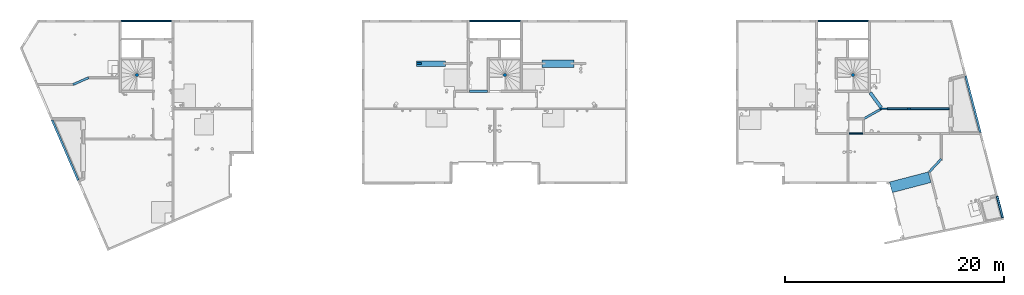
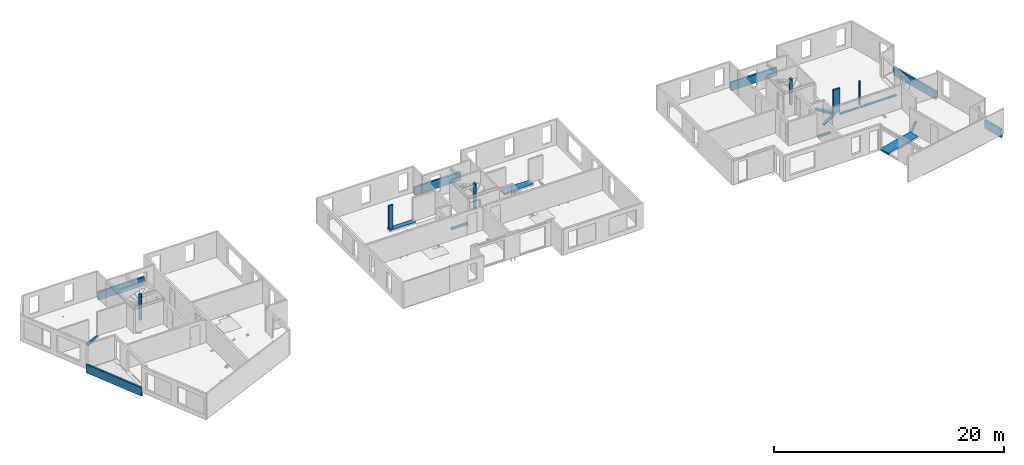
# One storey, part 1 of 24: 17 beams, 6 columns.
"""IFC2X3 building model written with IfcOpenShell, lengths in centimetres."""

from ifc_helpers import new_model, entity, si_unit, converted_unit, derived_unit, direction, frame, frame_2d, origin, origin_2d_with_axis, place, context, subcontext, project, spatial, rectangle, circle, extrude, clip, halfspace, face_set, faceted_brep, surface_model, source, transform, mapped, material, type_object, type_shapes, element, save


model = new_model("IFC2X3")

# Units and contexts
model_context = context("Model", 3, precision=0.001, world=origin(), true_north=direction((6.12303176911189e-17, 1.0)))
body_context = subcontext(model_context, "Body", "Model", "MODEL_VIEW")
ifc_project = project(units=[si_unit("LENGTHUNIT", "METRE", prefix="CENTI"), si_unit("AREAUNIT", "SQUARE_METRE"), si_unit("VOLUMEUNIT", "CUBIC_METRE"), converted_unit("PLANEANGLEUNIT", "DEGREE", entity("IfcRatioMeasure", 0.0174532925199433), si_unit("PLANEANGLEUNIT", "RADIAN"), dimensions=[0, 0, 0, 0, 0, 0, 0]), si_unit("MASSUNIT", "GRAM", prefix="KILO"), derived_unit("MASSDENSITYUNIT", [(si_unit("MASSUNIT", "GRAM", prefix="KILO"), 1), (si_unit("LENGTHUNIT", "METRE"), -3)]), si_unit("TIMEUNIT", "SECOND"), si_unit("FREQUENCYUNIT", "HERTZ"), si_unit("THERMODYNAMICTEMPERATUREUNIT", "DEGREE_CELSIUS"), derived_unit("THERMALTRANSMITTANCEUNIT", [(si_unit("MASSUNIT", "GRAM", prefix="KILO"), 1), (si_unit("THERMODYNAMICTEMPERATUREUNIT", "KELVIN"), -1), (si_unit("TIMEUNIT", "SECOND"), -3)]), derived_unit("VOLUMETRICFLOWRATEUNIT", [(si_unit("LENGTHUNIT", "METRE"), 3), (si_unit("TIMEUNIT", "SECOND"), -1)]), si_unit("ELECTRICCURRENTUNIT", "AMPERE"), si_unit("ELECTRICVOLTAGEUNIT", "VOLT"), si_unit("POWERUNIT", "WATT"), si_unit("FORCEUNIT", "NEWTON"), si_unit("ILLUMINANCEUNIT", "LUX"), si_unit("LUMINOUSFLUXUNIT", "LUMEN"), si_unit("LUMINOUSINTENSITYUNIT", "CANDELA"), derived_unit("USERDEFINED", [(si_unit("MASSUNIT", "GRAM", prefix="KILO"), -1), (si_unit("LENGTHUNIT", "METRE"), -2), (si_unit("TIMEUNIT", "SECOND"), 3), (si_unit("LUMINOUSFLUXUNIT", "LUMEN"), 1)]), derived_unit("LINEARVELOCITYUNIT", [(si_unit("LENGTHUNIT", "METRE"), 1), (si_unit("TIMEUNIT", "SECOND"), -1)]), si_unit("PRESSUREUNIT", "PASCAL"), derived_unit("USERDEFINED", [(si_unit("LENGTHUNIT", "METRE"), -2), (si_unit("MASSUNIT", "GRAM", prefix="KILO"), 1), (si_unit("TIMEUNIT", "SECOND"), -2)])], contexts=[model_context])

# Site, building, storey
site_placement = place(None, origin())
site = spatial("IfcSite", under=ifc_project, at=site_placement, Name="Default", CompositionType="ELEMENT")
building_placement = place(site_placement, origin())
building = spatial("IfcBuilding", under=site, at=building_placement, Name="CAGE 03", CompositionType="ELEMENT")
storey_placement = place(building_placement, frame((0.0, 0.0, 1150.0)))
storey = spatial("IfcBuildingStorey", under=building, at=storey_placement, Name="R+4", CompositionType="ELEMENT", Elevation=1150.0)

# Columns
ifc_material_1 = material(Name="Béton, C25/30")
column_type_1 = type_object("IfcColumnType", Name="18x67", PredefinedType="COLUMN", material=ifc_material_1)
shared_shape_1 = source(origin(), body_context, "Body", "SweptSolid", [
    extrude(rectangle(XDim=18.0000000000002, YDim=67.0000000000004, at=frame_2d((0.0, -1.73372427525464e-12), x_axis=(1.0, 0.0))), frame((10628.3658201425, 4483.66066607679, 1370.0), z_axis=(0.0, 0.0, 1.0), x_axis=(0.0, -1.0, 0.0)), (0.0, 0.0, 1.0), 30.0000000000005),
    extrude(rectangle(XDim=18.0000000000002, YDim=67.0000000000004, at=frame_2d((0.0, -1.73372427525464e-12), x_axis=(1.0, 0.0))), frame((10628.3658201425, 4483.66066607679, 1150.0), z_axis=(0.0, 0.0, 1.0), x_axis=(0.0, -1.0, 0.0)), (0.0, 0.0, 1.0), 219.999999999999),
])
type_shapes(column_type_1, [shared_shape_1])
column_1_placement = place(storey_placement, frame((0.0, 0.0, -1150.0)))
element("IfcColumn", 1, at=column_1_placement, inside=storey, type_object=column_type_1, material=ifc_material_1, Name="BBGO-Poteau rect:18x67", ObjectType="18x67", context=body_context, shape_type="MappedRepresentation", body=[
    mapped(shared_shape_1, transform((0.0, 0.0, 0.0), scale=1.0)),
])
column_type_2 = type_object("IfcColumnType", Name="Ø20", PredefinedType="COLUMN", material=ifc_material_1)
shared_shape_2 = source(origin(), body_context, "Body", "SweptSolid", [
    extrude(circle(Radius=10.0000000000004, at=origin_2d_with_axis()), frame((10861.3658201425, 4483.66066607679, 1370.0), z_axis=(0.0, 0.0, 1.0), x_axis=(0.0, -1.0, 0.0)), (0.0, 0.0, 1.0), 30.0000000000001),
    extrude(circle(Radius=10.0000000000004, at=origin_2d_with_axis()), frame((10861.3658201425, 4483.66066607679, 1150.0), z_axis=(0.0, 0.0, 1.0), x_axis=(0.0, -1.0, 0.0)), (0.0, 0.0, 1.0), 220.0),
])
type_shapes(column_type_2, [shared_shape_2])
column_2_placement = place(storey_placement, frame((0.0, 0.0, -1150.0)))
element("IfcColumn", 2, at=column_2_placement, inside=storey, type_object=column_type_2, material=ifc_material_1, Name="BBGO-Poteau circ:Ø20", ObjectType="Ø20", context=body_context, shape_type="MappedRepresentation", body=[
    mapped(shared_shape_2, transform((0.0, 0.0, 0.0), scale=1.0)),
])
column_type_3 = type_object("IfcColumnType", Name="16x43", PredefinedType="COLUMN", material=ifc_material_1)
shared_shape_3 = source(origin(), body_context, "Body", "SweptSolid", [
    extrude(rectangle(XDim=15.9999999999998, YDim=42.9999999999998, at=origin_2d_with_axis()), frame((6388.86582014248, 4895.6606660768, 1150.0), z_axis=(0.0, 0.0, 1.0), x_axis=(0.0, -1.0, 0.0)), (0.0, 0.0, 1.0), 250.0),
])
type_shapes(column_type_3, [shared_shape_3])
column_3_placement = place(storey_placement, frame((0.0, 0.0, -1150.0)))
element("IfcColumn", 3, at=column_3_placement, inside=storey, type_object=column_type_3, material=ifc_material_1, Name="BBGO-Poteau rect:16x43", ObjectType="16x43", context=body_context, shape_type="MappedRepresentation", body=[
    mapped(shared_shape_3, transform((0.0, 0.0, 0.0), scale=1.0)),
])
ifc_material_2 = material(Name="Béton, panneaux préfa 30/37")
column_type_4 = type_object("IfcColumnType", Name="Ø30", PredefinedType="COLUMN", material=ifc_material_2)
shared_shape_4 = source(origin(), body_context, "Body", "SweptSolid", [
    extrude(circle(Radius=15.0, at=origin_2d_with_axis()), frame((3813.36582014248, 4791.66066607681, 1400.0), z_axis=(0.0, 0.0, 1.0), x_axis=(-1.0, 0.0, 0.0)), (0.0, 0.0, 1.0), 20.0),
    extrude(circle(Radius=15.0, at=origin_2d_with_axis()), frame((3813.36582014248, 4791.66066607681, 1150.0)), (0.0, 0.0, 1.0), 250.0),
])
type_shapes(column_type_4, [shared_shape_4])
column_4_placement = place(storey_placement, frame((0.0, 0.0, -1150.0)))
element("IfcColumn", 4, at=column_4_placement, inside=storey, type_object=column_type_4, material=ifc_material_2, Name="BBGO-Poteau circ:Ø30", ObjectType="Ø30", context=body_context, shape_type="MappedRepresentation", body=[
    mapped(shared_shape_4, transform((0.0, 0.0, 0.0), scale=1.0)),
])
column_type_5 = type_object("IfcColumnType", Name="Ø30", PredefinedType="COLUMN", material=ifc_material_2)
shared_shape_5 = source(origin(), body_context, "Body", "SweptSolid", [
    extrude(circle(Radius=15.0000000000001, at=origin_2d_with_axis()), frame((7172.36582014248, 4791.66066607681, 1400.0), z_axis=(0.0, 0.0, 1.0), x_axis=(-1.0, 0.0, 0.0)), (0.0, 0.0, 1.0), 20.0),
    extrude(circle(Radius=15.0000000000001, at=origin_2d_with_axis()), frame((7172.36582014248, 4791.66066607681, 1150.0)), (0.0, 0.0, 1.0), 250.0),
])
type_shapes(column_type_5, [shared_shape_5])
column_5_placement = place(storey_placement, frame((0.0, 0.0, -1150.0)))
element("IfcColumn", 5, at=column_5_placement, inside=storey, type_object=column_type_5, material=ifc_material_2, Name="BBGO-Poteau circ:Ø30", ObjectType="Ø30", context=body_context, shape_type="MappedRepresentation", body=[
    mapped(shared_shape_5, transform((0.0, 0.0, 0.0), scale=1.0)),
])
column_type_6 = type_object("IfcColumnType", Name="Ø30", PredefinedType="COLUMN", material=ifc_material_2)
shared_shape_6 = source(origin(), body_context, "Body", "SweptSolid", [
    extrude(circle(Radius=15.0, at=origin_2d_with_axis()), frame((10349.3658201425, 4791.66066607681, 1400.0), z_axis=(0.0, 0.0, 1.0), x_axis=(-1.0, 0.0, 0.0)), (0.0, 0.0, 1.0), 20.0),
    extrude(circle(Radius=15.0, at=origin_2d_with_axis()), frame((10349.3658201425, 4791.66066607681, 1150.0)), (0.0, 0.0, 1.0), 250.0),
])
type_shapes(column_type_6, [shared_shape_6])
column_6_placement = place(storey_placement, frame((0.0, 0.0, -1150.0)))
element("IfcColumn", 6, at=column_6_placement, inside=storey, type_object=column_type_6, material=ifc_material_2, Name="BBGO-Poteau circ:Ø30", ObjectType="Ø30", context=body_context, shape_type="MappedRepresentation", body=[
    mapped(shared_shape_6, transform((0.0, 0.0, 0.0), scale=1.0)),
])

# Beams
beam_type_1 = type_object("IfcBeamType", Name="BBGO-Poutre rect:18x35ht", PredefinedType="BEAM")
beam_1_placement = place(storey_placement, frame((10661.8658201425, 4474.50191607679, -35.0)))
element("IfcBeam", 7, at=beam_1_placement, inside=storey, type_object=beam_type_1, material=ifc_material_1, Name="BBGO-Poutre rect:18x35ht", ObjectType="BBGO-Poutre rect:18x35ht", context=body_context, shape_type="Brep", body=[
    faceted_brep([(195.141101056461, 0.158750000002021, 0.0), (195.141101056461, 0.158750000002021, 15.0), (0.0, 0.158750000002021, 15.0), (0.0, 0.158750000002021, 0.0), (192.531752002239, 1.98633619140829, 0.0), (0.0, 18.1587500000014, 0.0), (195.141101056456, 18.1587500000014, 0.0), (192.531752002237, 16.3311638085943, 0.0), (190.629594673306, 13.775665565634, 0.0), (189.627674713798, 10.7516070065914, 0.0), (189.627674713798, 7.56589299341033, 0.0), (190.629594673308, 4.54183443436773, 0.0), (195.141101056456, 18.1587500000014, 15.0), (0.0, 18.1587500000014, 15.0), (192.531752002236, 16.3311638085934, 15.0), (190.629594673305, 13.7756655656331, 15.0), (189.627674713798, 10.7516070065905, 15.0), (189.627674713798, 7.56589299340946, 15.0), (190.629594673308, 4.54183443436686, 15.0), (192.531752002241, 1.98633619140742, 15.0)], [[[0, 1, 2, 3]], [[4, 0, 3, 5, 6, 7, 8, 9, 10, 11]], [[12, 6, 5, 13]], [[3, 2, 13, 5]], [[12, 14, 7, 6]], [[15, 16, 9, 8]], [[14, 15, 8, 7]], [[16, 17, 10, 9]], [[17, 18, 11, 10]], [[19, 1, 0, 4]], [[18, 19, 4, 11]], [[13, 2, 1, 19, 18, 17, 16, 15, 14, 12]]]),
])
beam_2_placement = place(storey_placement, frame((10865.565969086, 4474.50191607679, -35.0)))
element("IfcBeam", 8, at=beam_2_placement, inside=storey, type_object=beam_type_1, material=ifc_material_1, Name="BBGO-Poutre rect:18x35ht", ObjectType="BBGO-Poutre rect:18x35ht", context=body_context, shape_type="Brep", body=[
    faceted_brep([(364.79985105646, 0.158750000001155, 0.0), (364.79985105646, 0.158750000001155, 15.0), (0.158749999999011, 0.158750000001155, 15.0), (0.158750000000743, 0.158750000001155, 0.0), (2.76809905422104, 1.98633619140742, 0.0), (4.67025638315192, 4.54183443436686, 0.0), (5.67217634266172, 7.56589299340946, 0.0), (5.67217634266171, 10.7516070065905, 0.0), (4.67025638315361, 13.7756655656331, 0.0), (2.76809905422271, 16.3311638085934, 0.0), (0.15875000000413, 18.1587500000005, 0.0), (364.79985105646, 18.1587500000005, 0.0), (364.79985105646, 18.1587500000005, 15.0), (0.15875000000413, 18.1587500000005, 15.0), (2.76809905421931, 1.98633619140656, 15.0), (4.67025638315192, 4.541834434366, 15.0), (5.67217634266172, 7.5658929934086, 15.0), (5.67217634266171, 10.7516070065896, 15.0), (4.67025638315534, 13.7756655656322, 15.0), (2.76809905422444, 16.3311638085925, 15.0)], [[[0, 1, 2, 3]], [[0, 3, 4, 5, 6, 7, 8, 9, 10, 11]], [[12, 11, 10, 13]], [[4, 3, 2, 14]], [[15, 16, 6, 5]], [[5, 4, 14, 15]], [[16, 17, 7, 6]], [[17, 18, 8, 7]], [[19, 13, 10, 9]], [[18, 19, 9, 8]], [[0, 11, 12, 1]], [[18, 17, 16, 15, 14, 2, 1, 12, 13, 19]]]),
])
beam_type_2 = type_object("IfcBeamType", Name="BBGO-Poutre rect:18x89ht", PredefinedType="BEAM")
beam_3_placement = place(storey_placement, frame((3663.36582014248, 5284.66066607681, 0.0)))
element("IfcBeam", 9, at=beam_3_placement, inside=storey, type_object=beam_type_2, material=ifc_material_1, Name="BBGO-Poutre rect:18x89ht", ObjectType="BBGO-Poutre rect:18x89ht", context=body_context, shape_type="SweptSolid", body=[
    extrude(rectangle(XDim=89.0000000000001, YDim=17.9999999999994, at=frame_2d((0.0, 1.73283609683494e-12), x_axis=(1.0, 0.0))), frame((9.0, 0.0, 0.499999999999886), z_axis=(1.0, 0.0, 0.0), x_axis=(0.0, 0.0, -1.0)), (0.0, 0.0, 1.0), 461.999999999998),
])
beam_4_placement = place(storey_placement, frame((6840.36582014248, 5284.6606660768, 0.0)))
element("IfcBeam", 10, at=beam_4_placement, inside=storey, type_object=beam_type_2, material=ifc_material_1, Name="BBGO-Poutre rect:18x89ht", ObjectType="BBGO-Poutre rect:18x89ht", context=body_context, shape_type="SweptSolid", body=[
    extrude(rectangle(XDim=89.0000000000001, YDim=17.9999999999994, at=frame_2d((0.0, 1.73283609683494e-12), x_axis=(1.0, 0.0))), frame((9.0, 0.0, 0.499999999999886), z_axis=(1.0, 0.0, 0.0), x_axis=(0.0, 0.0, -1.0)), (0.0, 0.0, 1.0), 464.0),
])
beam_5_placement = place(storey_placement, frame((10019.3658201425, 5284.66066607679, 0.0)))
element("IfcBeam", 11, at=beam_5_placement, inside=storey, type_object=beam_type_2, material=ifc_material_1, Name="BBGO-Poutre rect:18x89ht", ObjectType="BBGO-Poutre rect:18x89ht", context=body_context, shape_type="SweptSolid", body=[
    extrude(rectangle(XDim=89.0000000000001, YDim=17.9999999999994, at=frame_2d((0.0, 1.73283609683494e-12), x_axis=(1.0, 0.0))), frame((9.0, 0.0, 0.499999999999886), z_axis=(1.0, 0.0, 0.0), x_axis=(0.0, 0.0, -1.0)), (0.0, 0.0, 1.0), 462.000000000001),
])
beam_6_placement = place(storey_placement, frame((3281.62861640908, 3824.01596311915, 0.0), z_axis=(0.0, 0.0, 1.0), x_axis=(-0.397106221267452, 0.91777265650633, 0.0)))
element("IfcBeam", 12, at=beam_6_placement, inside=storey, type_object=beam_type_2, material=ifc_material_1, Name="BBGO-Poutre rect:18x89ht", ObjectType="BBGO-Poutre rect:18x89ht", context=body_context, shape_type="Clipping", body=[
    clip(extrude(rectangle(XDim=89.0000000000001, YDim=18.0000000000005, at=frame_2d((0.0, -1.98951966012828e-13), x_axis=(1.0, 0.0))), frame((9.0, 0.0, 0.499999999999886), z_axis=(1.0, 0.0, 0.0), x_axis=(0.0, 0.0, -1.0)), (0.0, 0.0, 1.0), 602.500740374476), halfspace(frame((496.396298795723, -257.023807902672, -270.0), z_axis=(0.917772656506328, -0.397106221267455, 0.0), x_axis=(-0.397106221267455, -0.917772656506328, 0.0)), False)),
])
beam_7_placement = place(storey_placement, frame((11375.3311365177, 4792.76076680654, 0.0), z_axis=(0.0, 0.0, 1.0), x_axis=(0.252679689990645, -0.967549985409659, 0.0)))
element("IfcBeam", 13, at=beam_7_placement, inside=storey, type_object=beam_type_2, material=ifc_material_1, Name="BBGO-Poutre rect:18x89ht", ObjectType="BBGO-Poutre rect:18x89ht", context=body_context, shape_type="Clipping", body=[
    clip(extrude(rectangle(XDim=89.0000000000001, YDim=17.9999999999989, at=frame_2d((0.0, 8.38440428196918e-13), x_axis=(1.0, 0.0))), frame((9.0, 0.0, 0.499999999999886), z_axis=(1.0, 0.0, 0.0), x_axis=(0.0, 0.0, -1.0)), (0.0, 0.0, 1.0), 537.095008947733), halfspace(frame((547.268838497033, 13.4947766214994, 0.0), z_axis=(0.967549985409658, -0.252679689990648, 0.0), x_axis=(-0.252679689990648, -0.967549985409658, 0.0)), False)),
])
beam_8_placement = place(storey_placement, frame((11662.375264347, 3693.62398338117, 0.0), z_axis=(0.0, 0.0, 1.0), x_axis=(0.252679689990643, -0.96754998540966, 0.0)))
element("IfcBeam", 14, at=beam_8_placement, inside=storey, type_object=beam_type_2, material=ifc_material_1, Name="BBGO-Poutre rect:18x89ht", ObjectType="BBGO-Poutre rect:18x89ht", context=body_context, shape_type="Clipping", body=[
    clip(extrude(rectangle(XDim=89.0000000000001, YDim=17.999999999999, at=frame_2d((0.0, 2.62456723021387e-12), x_axis=(1.0, 0.0))), frame((9.0, 0.0, 0.499999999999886), z_axis=(1.0, 0.0, 0.0), x_axis=(0.0, 0.0, -1.0)), (0.0, 0.0, 1.0), 204.587793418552), halfspace(frame((171.771995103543, -791.479812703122, -270.0), z_axis=(0.998638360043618, -0.0521672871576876, 0.0), x_axis=(-0.0521672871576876, -0.998638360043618, 0.0)), False)),
])
beam_type_3 = type_object("IfcBeamType", Name="20x20ht", PredefinedType="BEAM", material=ifc_material_1)
shared_shape_7 = source(origin(), body_context, "Body", "SurfaceModel", [
    surface_model("IfcFaceBasedSurfaceModel", [(0.0, 18.3053501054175, 20.0), (8.05693226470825, 0.0, 20.0), (8.05693226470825, 0.0, 0.0), (0.0, 18.3053501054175, 0.0), (142.0, 80.8053501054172, 20.0), (150.056932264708, 62.5000000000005, 20.0), (150.056932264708, 62.5000000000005, 0.0), (142.0, 80.8053501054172, 0.0)], [face_set([[[0, 1, 2, 3]], [[4, 5, 6, 7]], [[3, 0, 4, 7]], [[2, 3, 7, 6]], [[1, 2, 6, 5]], [[0, 1, 5, 4]]])]),
])
type_shapes(beam_type_3, [shared_shape_7])
beam_9_placement = place(storey_placement, frame((3227.33735401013, 4695.5079910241, -20.0)))
element("IfcBeam", 15, at=beam_9_placement, inside=storey, type_object=beam_type_3, material=ifc_material_1, Name="BBGO-Poutre rect:20x20ht", ObjectType="20x20ht", context=body_context, shape_type="MappedRepresentation", body=[
    mapped(shared_shape_7, transform((0.0, 0.0, 0.0), scale=1.0)),
])
beam_type_4 = type_object("IfcBeamType", Name="18x20ht", PredefinedType="BEAM", material=ifc_material_1)
shared_shape_8 = source(origin(), body_context, "Body", "Brep", [
    faceted_brep([(122.0, 0.0, 20.0), (122.0, 0.0, 0.0), (122.0, 18.0, 0.0), (122.0, 18.0, 20.0), (0.0, 0.0, 20.0), (0.0, 18.0, 20.0), (0.0, 18.0, 0.0), (0.0, 0.0, 0.0)], [[[0, 1, 2, 3]], [[4, 5, 6, 7]], [[1, 0, 4, 7]], [[2, 1, 7, 6]], [[3, 2, 6, 5]], [[0, 3, 5, 4]]]),
])
type_shapes(beam_type_4, [shared_shape_8])
beam_10_placement = place(storey_placement, frame((10315.3658201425, 4248.66066607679, -20.0)))
element("IfcBeam", 16, at=beam_10_placement, inside=storey, type_object=beam_type_4, material=ifc_material_1, Name="BBGO-Poutre rect:18x20ht", ObjectType="18x20ht", context=body_context, shape_type="MappedRepresentation", body=[
    mapped(shared_shape_8, transform((0.0, 0.0, 0.0), scale=1.0)),
])
beam_type_5 = type_object("IfcBeamType", Name="20x20ht", PredefinedType="BEAM", material=ifc_material_1)
shared_shape_9 = source(origin(), body_context, "Body", "SurfaceModel", [
    surface_model("IfcFaceBasedSurfaceModel", [(123.564687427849, 117.609640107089, 20.0), (123.564687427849, 117.609640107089, 0.0), (108.888920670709, 131.197203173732, 0.0), (108.888920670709, 131.197203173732, 20.0), (14.6757667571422, 0.0, 20.0), (14.6757667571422, 0.0, 0.0), (0.0, 13.5875630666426, 0.0), (0.0, 13.5875630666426, 20.0)], [face_set([[[0, 1, 2, 3]], [[4, 5, 6, 7]], [[1, 0, 4, 5]], [[2, 1, 5, 6]], [[3, 2, 6, 7]], [[0, 3, 7, 4]]])]),
])
type_shapes(beam_type_5, [shared_shape_9])
beam_11_placement = place(storey_placement, frame((11039.6390160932, 3900.25724443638, -20.0)))
element("IfcBeam", 17, at=beam_11_placement, inside=storey, type_object=beam_type_5, material=ifc_material_1, Name="BBGO-Poutre rect:20x20ht", ObjectType="20x20ht", context=body_context, shape_type="MappedRepresentation", body=[
    mapped(shared_shape_9, transform((0.0, 0.0, 0.0), scale=1.0)),
])
beam_type_6 = type_object("IfcBeamType", Name="70x20ht", PredefinedType="BEAM", material=ifc_material_1)
shared_shape_10 = source(origin(), body_context, "Body", "Brep", [
    faceted_brep([(291.5, 0.0, 20.0), (291.5, 0.0, 0.0), (291.5, 70.0, 0.0), (291.5, 70.0, 20.0), (0.0, 0.0, 20.0), (0.0, 70.0, 20.0), (0.0, 70.0, 0.0), (0.0, 0.0, 0.0)], [[[0, 1, 2, 3]], [[4, 5, 6, 7]], [[1, 0, 4, 7]], [[2, 1, 7, 6]], [[3, 2, 6, 5]], [[0, 3, 5, 4]]]),
])
type_shapes(beam_type_6, [shared_shape_10])
beam_12_placement = place(storey_placement, frame((7512.36582014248, 4860.6606660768, -20.0)))
element("IfcBeam", 18, at=beam_12_placement, inside=storey, type_object=beam_type_6, material=ifc_material_1, Name="BBGO-Poutre rect:70x20ht", ObjectType="70x20ht", context=body_context, shape_type="MappedRepresentation", body=[
    mapped(shared_shape_10, transform((0.0, 0.0, 0.0), scale=1.0)),
])
beam_type_7 = type_object("IfcBeamType", Name="50x20ht", PredefinedType="BEAM", material=ifc_material_1)
shared_shape_11 = source(origin(), body_context, "Body", "Brep", [
    faceted_brep([(263.0, 0.0, 20.0), (263.0, 0.0, 0.0), (263.0, 50.0, 0.0), (263.0, 50.0, 20.0), (0.0, 0.0, 20.0), (0.0, 50.0, 20.0), (0.0, 50.0, 0.0), (0.0, 0.0, 0.0)], [[[0, 1, 2, 3]], [[4, 5, 6, 7]], [[1, 0, 4, 7]], [[2, 1, 7, 6]], [[3, 2, 6, 5]], [[0, 3, 5, 4]]]),
])
type_shapes(beam_type_7, [shared_shape_11])
beam_13_placement = place(storey_placement, frame((6367.36582014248, 4870.6606660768, -20.0)))
element("IfcBeam", 19, at=beam_13_placement, inside=storey, type_object=beam_type_7, material=ifc_material_1, Name="BBGO-Poutre rect:50x20ht", ObjectType="50x20ht", context=body_context, shape_type="MappedRepresentation", body=[
    mapped(shared_shape_11, transform((0.0, 0.0, 0.0), scale=1.0)),
])
beam_type_8 = type_object("IfcBeamType", Name="30x20ht", PredefinedType="BEAM", material=ifc_material_1)
shared_shape_12 = source(origin(), body_context, "Body", "SurfaceModel", [
    surface_model("IfcFaceBasedSurfaceModel", [(100.827219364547, 0.0, 20.0), (100.827219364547, 0.0, 0.0), (125.046144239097, 17.7043406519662, 0.0), (125.046144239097, 17.7043406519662, 20.0), (0.0, 137.928144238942, 20.0), (24.2189248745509, 155.632484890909, 20.0), (24.2189248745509, 155.632484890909, 0.0), (0.0, 137.928144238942, 0.0)], [face_set([[[0, 1, 2, 3]], [[4, 5, 6, 7]], [[1, 7, 4, 0]], [[2, 1, 7, 6]], [[3, 2, 6, 5]], [[0, 3, 5, 4]]])]),
])
type_shapes(beam_type_8, [shared_shape_12])
beam_14_placement = place(storey_placement, frame((10495.3500244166, 4483.80849575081, -20.0)))
element("IfcBeam", 20, at=beam_14_placement, inside=storey, type_object=beam_type_8, material=ifc_material_1, Name="BBGO-Poutre rect:30x20ht", ObjectType="30x20ht", context=body_context, shape_type="MappedRepresentation", body=[
    mapped(shared_shape_12, transform((0.0, 0.0, 0.0), scale=1.0)),
])
beam_type_9 = type_object("IfcBeamType", Name="100x20ht", PredefinedType="BEAM", material=ifc_material_1)
shared_shape_13 = source(origin(), body_context, "Body", "SurfaceModel", [
    surface_model("IfcFaceBasedSurfaceModel", [(379.391263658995, 92.4807665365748, 20.0), (379.391263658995, 92.4807665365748, 0.0), (354.123294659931, 189.235765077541, 0.0), (354.123294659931, 189.235765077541, 20.0), (25.2679689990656, 0.0, 20.0), (25.2679689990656, 0.0, 0.0), (0.0, 96.7549985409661, 0.0), (0.0, 96.7549985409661, 20.0)], [face_set([[[0, 1, 2, 3]], [[4, 5, 6, 7]], [[1, 0, 4, 5]], [[2, 1, 5, 6]], [[3, 2, 6, 7]], [[0, 3, 7, 4]]])]),
])
type_shapes(beam_type_9, [shared_shape_13])
beam_15_placement = place(storey_placement, frame((10683.5281497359, 3717.90566753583, -20.0)))
element("IfcBeam", 21, at=beam_15_placement, inside=storey, type_object=beam_type_9, material=ifc_material_1, Name="BBGO-Poutre rect:100x20ht", ObjectType="100x20ht", context=body_context, shape_type="MappedRepresentation", body=[
    mapped(shared_shape_13, transform((0.0, 0.0, 0.0), scale=1.0)),
])
beam_type_10 = type_object("IfcBeamType", Name="20x20ht", PredefinedType="BEAM", material=ifc_material_1)
shared_shape_14 = source(origin(), body_context, "Body", "SurfaceModel", [
    surface_model("IfcFaceBasedSurfaceModel", [(174.257652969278, 93.0, 20.0), (174.257652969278, 93.0, 0.0), (164.410714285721, 110.407980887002, 0.0), (164.410714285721, 110.407980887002, 20.0), (9.84693868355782, 0.0, 20.0), (9.84693868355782, 0.0, 0.0), (0.0, 17.4079808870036, 0.0), (0.0, 17.4079808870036, 20.0)], [face_set([[[0, 1, 2, 3]], [[4, 5, 6, 7]], [[1, 0, 4, 5]], [[2, 1, 5, 6]], [[3, 2, 6, 7]], [[0, 3, 7, 4]]])]),
])
type_shapes(beam_type_10, [shared_shape_14])
beam_16_placement = place(storey_placement, frame((10441.4423508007, 4381.95667563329, -20.0)))
element("IfcBeam", 22, at=beam_16_placement, inside=storey, type_object=beam_type_10, material=ifc_material_1, Name="BBGO-Poutre rect:20x20ht", ObjectType="20x20ht", context=body_context, shape_type="MappedRepresentation", body=[
    mapped(shared_shape_14, transform((0.0, 0.0, 0.0), scale=1.0)),
])
beam_type_11 = type_object("IfcBeamType", Name="20x20ht", PredefinedType="BEAM", material=ifc_material_1)
shared_shape_15 = source(origin(), body_context, "Body", "Brep", [
    faceted_brep([(164.0, 0.0, 20.0), (164.0, 0.0, 0.0), (164.0, 20.0, 0.0), (164.0, 20.0, 20.0), (0.0, 0.0, 20.0), (0.0, 20.0, 20.0), (0.0, 20.0, 0.0), (0.0, 0.0, 0.0)], [[[0, 1, 2, 3]], [[4, 5, 6, 7]], [[1, 0, 4, 7]], [[2, 1, 7, 6]], [[3, 2, 6, 5]], [[0, 3, 5, 4]]]),
])
type_shapes(beam_type_11, [shared_shape_15])
beam_17_placement = place(storey_placement, frame((6849.36582014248, 4632.6606660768, -20.0)))
element("IfcBeam", 23, at=beam_17_placement, inside=storey, type_object=beam_type_11, material=ifc_material_1, Name="BBGO-Poutre rect:20x20ht", ObjectType="20x20ht", context=body_context, shape_type="MappedRepresentation", body=[
    mapped(shared_shape_15, transform((0.0, 0.0, 0.0), scale=1.0)),
])

save(model, "model.ifc")
